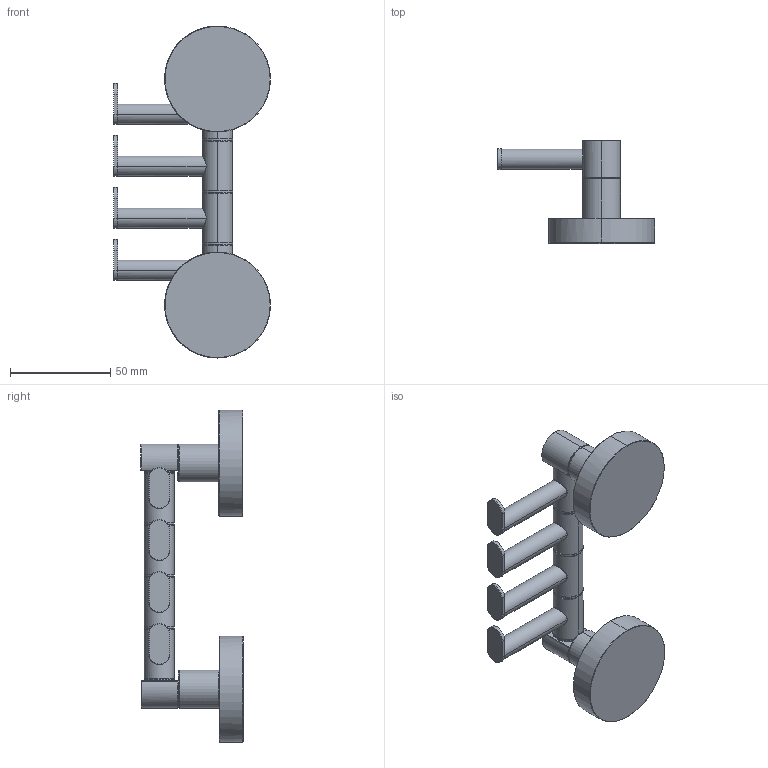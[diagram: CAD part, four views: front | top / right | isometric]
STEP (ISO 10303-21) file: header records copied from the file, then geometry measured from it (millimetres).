
FILE_DESCRIPTION(('THIS FILE CONTAINS SOME STEP INSTANCES'),'1');
FILE_NAME('HAR 011-light.stp','2015-10-26T15:11:26',('UNDEFINED'),('UNDEFINED'),'T-FLEX CAD STEP converter','T-FLEX CAD','');
FILE_SCHEMA(('CONFIG_CONTROL_DESIGN'));
Length unit declared in the file: metre
Products named in the file (6): har_011-05; har_011; har_011-03; har_011-02; har_011-01; har_011-04
Bounding box: 78.5 x 51.25 x 166 mm (x, y, z)
Volume: 106090.8 mm3; surface area: 30268.5 mm2
Topology: 6 solids, 6 shells, 193 faces, 407 edges, 240 vertices
Faces by surface type: cone 69, plane 66, cylinder 50, bspline 8
Entity records: 9285 total; most frequent: CARTESIAN_POINT 5550, ORIENTED_EDGE 814, DIRECTION 657, EDGE_CURVE 407, VERTEX_POINT 240, AXIS2_PLACEMENT_3D 231, EDGE_LOOP 207, LINE 195
